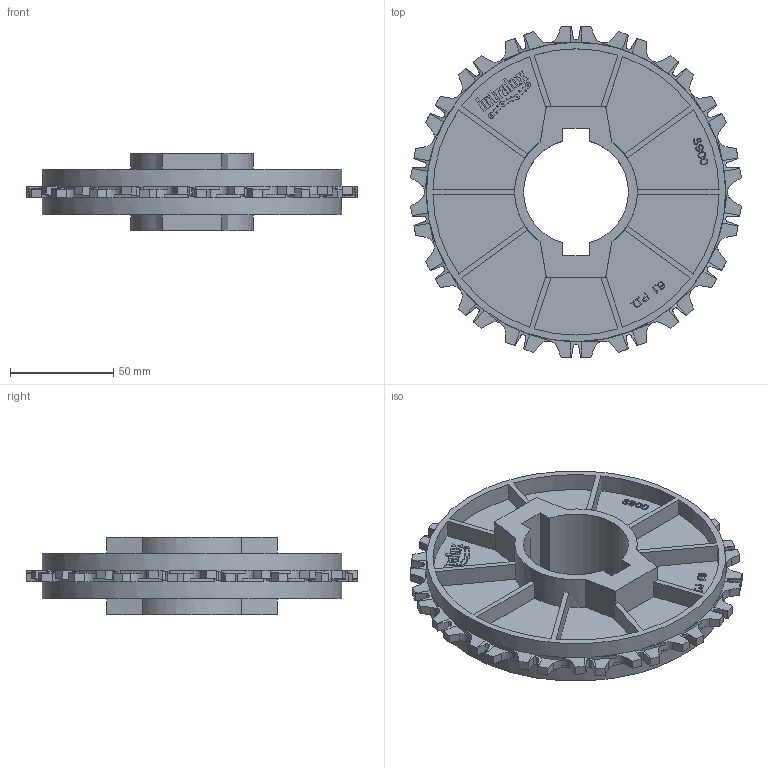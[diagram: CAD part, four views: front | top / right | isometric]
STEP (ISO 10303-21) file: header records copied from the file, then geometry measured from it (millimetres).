
FILE_DESCRIPTION((''),'2;1');
FILE_NAME('S900_SPROCKET_61X1-15_16_PILOT','2008-12-12T',('jmumphre'),(''),'PRO/ENGINEER BY PARAMETRIC TECHNOLOGY CORPORATION, 2008150','PRO/ENGINEER BY PARAMETRIC TECHNOLOGY CORPORATION, 2008150','');
FILE_SCHEMA(('CONFIG_CONTROL_DESIGN'));
Length unit declared in the file: inch
Products named in the file (1): S900_SPROCKET_61X1-15_16_PILOT
Bounding box: 160.28 x 160.22 x 37.59 mm (x, y, z)
Volume: 162057.6 mm3; surface area: 78635.4 mm2
Topology: 1 solids, 1 shells, 1005 faces, 2904 edges, 1936 vertices
Faces by surface type: plane 832, cylinder 173
Entity records: 32823 total; most frequent: CARTESIAN_POINT 6152, ORIENTED_EDGE 5808, DIRECTION 5176, EDGE_CURVE 2904, VECTOR 2426, LINE 2426, VERTEX_POINT 1936, AXIS2_PLACEMENT_3D 1375
